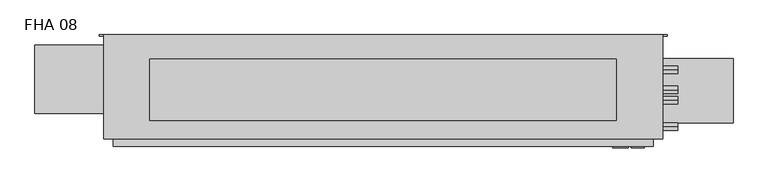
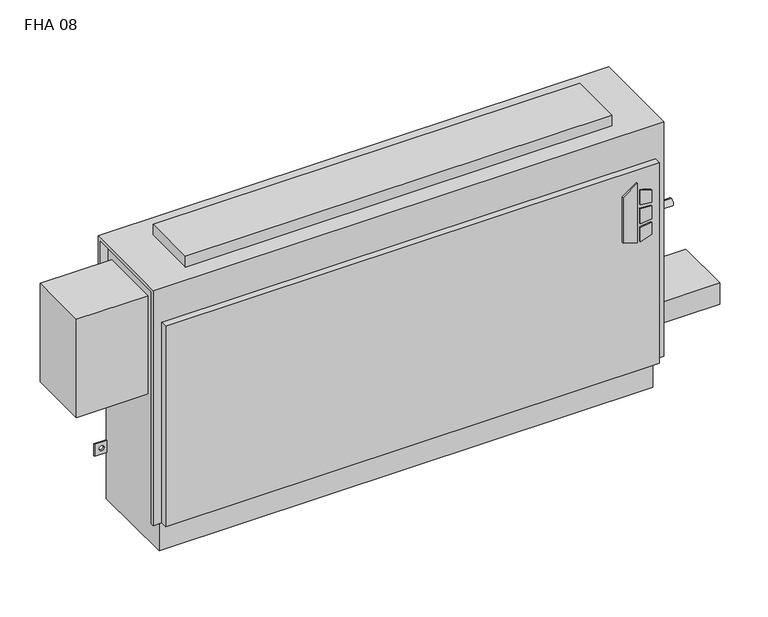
"""IFC4 building model written with IfcOpenShell, lengths in millimetres: proxy geometry, Vertical_Fan_Coil_Unit_-_FHA_-_IEC_-_4-Pipe_TS-FR_RH_2022 : FHA 08."""

from ifc_helpers import new_model, si_unit, point, frame, frame_2d, origin, place, context, project, spatial, polyline, circle_curve, trimmed, segment, composite_curve, outline, extrude, source, transform, mapped, element, save
from ifc_brep_helpers import plane_surface, revolved_surface, advanced_brep


def fha_08_c3b81369(model_context):
    return source(origin(), model_context, "Body", "SolidModel", [
        extrude(outline(polyline([(391.6086829, 627.1368862), (381.6606126, 659.3102728), (523.831537, 659.3102728), (500.8095309, 627.1368862), (391.6086829, 627.1368862)])), frame((0.0, 9.525, 0.0), z_axis=(0.0, 1.0, 0.0), x_axis=(0.0, 0.0, 1.0)), (0.0, 0.0, 1.0), 3.175),
        extrude(outline(polyline([(470.6079683, 666.0686058), (467.4055757, 692.15), (496.6344168, 692.15), (504.6988318, 666.0686058), (470.6079683, 666.0686058)])), frame((0.0, 9.525, 0.0), z_axis=(0.0, 1.0, 0.0), x_axis=(0.0, 0.0, 1.0)), (0.0, 0.0, 1.0), 3.175),
        extrude(outline(polyline([(418.7444414, 692.15), (415.0789404, 666.0686058), (381.6606126, 666.0686058), (390.2948498, 692.15), (418.7444414, 692.15)])), frame((0.0, 9.525, 0.0), z_axis=(0.0, 1.0, 0.0), x_axis=(0.0, 0.0, 1.0)), (0.0, 0.0, 1.0), 3.175),
        extrude(outline(polyline([(458.0596028, 692.15), (460.3414292, 666.0686058), (424.4038806, 666.0686058), (427.1451456, 692.15), (458.0596028, 692.15)])), frame((0.0, 9.525, 0.0), z_axis=(0.0, 1.0, 0.0), x_axis=(0.0, 0.0, 1.0)), (0.0, 0.0, 1.0), 3.175),
        extrude(outline(composite_curve([segment(trimmed(circle_curve(frame_2d((774.7, 128.5875)), 9.525), [point((765.175, 128.5875))], [point((784.225, 128.5875))], False, "CARTESIAN"), True, "CONTINUOUS"), segment(trimmed(circle_curve(frame_2d((774.7, 128.5875)), 9.525), [point((784.225, 128.5875))], [point((765.175, 128.5875))], False, "CARTESIAN"), True, "CONTINUOUS")], self_intersect=False)), frame((0.0, 0.0, 101.6), z_axis=(0.0, 0.0, 1.0), x_axis=(1.0, 0.0, 0.0)), (0.0, 0.0, 1.0), 25.4),
        extrude(outline(polyline([(876.3, 195.2625), (876.3, 61.9125), (711.2, 61.9125), (711.2, 195.2625), (876.3, 195.2625)])), frame((0.0, 0.0, 127.0), z_axis=(0.0, 0.0, 1.0), x_axis=(1.0, 0.0, 0.0)), (0.0, 0.0, 1.0), 50.8),
        extrude(outline(polyline([(635.0, 193.675), (635.0, 66.675), (-330.2, 66.675), (-330.2, 193.675), (635.0, 193.675)])), frame((0.0, 0.0, 635.0), z_axis=(0.0, 0.0, 1.0), x_axis=(1.0, 0.0, 0.0)), (0.0, 0.0, 1.0), 25.4),
        extrude(outline(composite_curve([segment(trimmed(circle_curve(frame_2d((109.0168, 457.2)), 7.9375), [point((109.0168, 449.2625))], [point((109.0168, 465.1375))], False, "CARTESIAN"), True, "CONTINUOUS"), segment(trimmed(circle_curve(frame_2d((109.0168, 457.2)), 7.9375), [point((109.0168, 465.1375))], [point((109.0168, 449.2625))], False, "CARTESIAN"), True, "CONTINUOUS")], self_intersect=False)), frame((711.2, 0.0, 0.0), z_axis=(1.0, 0.0, 0.0), x_axis=(0.0, 1.0, 0.0)), (0.0, 0.0, 1.0), 50.8),
        extrude(outline(composite_curve([segment(trimmed(circle_curve(frame_2d((172.085, 460.0194)), 7.9375), [point((172.085, 452.0819))], [point((172.085, 467.9569))], False, "CARTESIAN"), True, "CONTINUOUS"), segment(trimmed(circle_curve(frame_2d((172.085, 460.0194)), 7.9375), [point((172.085, 467.9569))], [point((172.085, 452.0819))], False, "CARTESIAN"), True, "CONTINUOUS")], self_intersect=False)), frame((711.2, 0.0, 0.0), z_axis=(1.0, 0.0, 0.0), x_axis=(0.0, 1.0, 0.0)), (0.0, 0.0, 1.0), 50.8),
        extrude(outline(composite_curve([segment(trimmed(circle_curve(frame_2d((130.175, 554.99)), 7.9502), [point((130.175, 547.0398))], [point((130.175, 562.9402))], False, "CARTESIAN"), True, "CONTINUOUS"), segment(trimmed(circle_curve(frame_2d((130.175, 554.99)), 7.9502), [point((130.175, 562.9402))], [point((130.175, 547.0398))], False, "CARTESIAN"), True, "CONTINUOUS")], self_intersect=False)), frame((711.2, 0.0, 0.0), z_axis=(1.0, 0.0, 0.0), x_axis=(0.0, 1.0, 0.0)), (0.0, 0.0, 1.0), 50.8),
        extrude(outline(composite_curve([segment(trimmed(circle_curve(frame_2d((53.975, 416.56)), 7.9502), [point((53.975, 408.6098))], [point((53.975, 424.5102))], False, "CARTESIAN"), True, "CONTINUOUS"), segment(trimmed(circle_curve(frame_2d((53.975, 416.56)), 7.9502), [point((53.975, 424.5102))], [point((53.975, 408.6098))], False, "CARTESIAN"), True, "CONTINUOUS")], self_intersect=False)), frame((711.2, 0.0, 0.0), z_axis=(1.0, 0.0, 0.0), x_axis=(0.0, 1.0, 0.0)), (0.0, 0.0, 1.0), 50.8),
        extrude(outline(polyline([(-568.325, 223.266), (-406.4, 223.266), (-406.4, 81.534), (-568.325, 81.534), (-568.325, 223.266)])), frame((0.0, 0.0, 349.25), z_axis=(0.0, 0.0, 1.0), x_axis=(1.0, 0.0, 0.0)), (0.0, 0.0, 1.0), 234.95),
        advanced_brep(
        [(730.25, 244.475, 635.0), (-425.45, 244.475, 635.0), (-425.45, 28.575, 635.0), (730.25, 28.575, 635.0), (-406.4, 244.475, 0.0), (711.2, 244.475, 0.0), (711.2, 38.1, 0.0), (-406.4, 38.1, 0.0), (730.25, 244.475, 558.8), (711.2, 244.475, 558.8), (711.2, 244.475, 414.3375), (739.775, 244.475, 414.3375), (739.775, 244.475, 385.7625), (711.2, 244.475, 385.7625), (711.2, 244.475, 287.3375), (739.775, 244.475, 287.3375), (739.775, 244.475, 258.7625), (711.2, 244.475, 258.7625), (711.2, 244.475, 141.2875), (739.775, 244.475, 141.2875), (739.775, 244.475, 112.7125), (711.2, 244.475, 112.7125), (-406.4, 244.475, 112.7125), (-434.975, 244.475, 112.7125), (-434.975, 244.475, 141.2875), (-406.4, 244.475, 141.2875), (-406.4, 244.475, 258.7625), (-434.975, 244.475, 258.7625), (-434.975, 244.475, 287.3375), (-406.4, 244.475, 287.3375), (-406.4, 244.475, 385.7625), (-434.975, 244.475, 385.7625), (-434.975, 244.475, 414.3375), (-406.4, 244.475, 414.3375), (-406.4, 244.475, 558.8), (-425.45, 244.475, 558.8), (729.4626, 244.475, 127.0), (718.3374, 244.475, 127.0), (-413.5374, 244.475, 127.0), (-424.6626, 244.475, 127.0), (729.4626, 244.475, 273.05), (718.3374, 244.475, 273.05), (-413.5374, 244.475, 273.05), (-424.6626, 244.475, 273.05), (729.4626, 244.475, 400.05), (718.3374, 244.475, 400.05), (-413.5374, 244.475, 400.05), (-424.6626, 244.475, 400.05), (-425.45, 238.125, 558.8), (-425.45, 238.125, 628.65), (-425.45, 34.925, 628.65), (-425.45, 34.925, 73.025), (-425.45, 28.575, 73.025), (711.2, 12.7, 552.45), (-406.4, 12.7, 552.45), (-406.4, 12.7, 73.025), (711.2, 12.7, 73.025), (730.25, 28.575, 73.025), (730.25, 34.925, 73.025), (730.25, 34.925, 628.65), (730.25, 238.125, 628.65), (730.25, 238.125, 558.8), (-406.4, 28.575, 73.025), (-406.4, 28.575, 552.45), (711.2, 28.575, 552.45), (711.2, 28.575, 73.025), (-406.4, 34.925, 73.025), (-406.4, 38.1, 73.025), (711.2, 38.1, 73.025), (711.2, 34.925, 73.025), (711.2, 241.3, 112.7125), (711.2, 241.3, 141.2875), (711.2, 241.3, 258.7625), (711.2, 241.3, 287.3375), (711.2, 241.3, 385.7625), (711.2, 241.3, 414.3375), (711.2, 238.125, 558.8), (711.2, 238.125, 628.65), (711.2, 34.925, 628.65), (-406.4, 34.925, 628.65), (-406.4, 238.125, 628.65), (-406.4, 238.125, 558.8), (-406.4, 241.3, 414.3375), (-406.4, 241.3, 385.7625), (-406.4, 241.3, 287.3375), (-406.4, 241.3, 258.7625), (-406.4, 241.3, 141.2875), (-406.4, 241.3, 112.7125), (739.775, 241.3, 112.7125), (739.775, 241.3, 141.2875), (718.3374, 241.3, 127.0), (729.4626, 241.3, 127.0), (739.775, 241.3, 258.7625), (739.775, 241.3, 287.3375), (718.3374, 241.3, 273.05), (729.4626, 241.3, 273.05), (739.775, 241.3, 385.7625), (739.775, 241.3, 414.3375), (718.3374, 241.3, 400.05), (729.4626, 241.3, 400.05), (-434.975, 241.3, 141.2875), (-434.975, 241.3, 112.7125), (-424.6626, 241.3, 127.0), (-413.5374, 241.3, 127.0), (-434.975, 241.3, 287.3375), (-434.975, 241.3, 258.7625), (-424.6626, 241.3, 273.05), (-413.5374, 241.3, 273.05), (-434.975, 241.3, 414.3375), (-434.975, 241.3, 385.7625), (-424.6626, 241.3, 400.05), (-413.5374, 241.3, 400.05)],
        [
            (0, 1),
            (1, 2),
            (2, 3),
            (3, 0),
            (4, 5),
            (5, 6),
            (6, 7),
            (7, 4),
            (0, 8),
            (8, 9),
            (9, 10),
            (10, 11),
            (11, 12),
            (12, 13),
            (13, 14),
            (14, 15),
            (15, 16),
            (16, 17),
            (17, 18),
            (18, 19),
            (19, 20),
            (20, 21),
            (21, 5),
            (4, 22),
            (22, 23),
            (23, 24),
            (24, 25),
            (25, 26),
            (26, 27),
            (27, 28),
            (28, 29),
            (29, 30),
            (30, 31),
            (31, 32),
            (32, 33),
            (33, 34),
            (34, 35),
            (35, 1),
            (36, 37, circle_curve(frame((723.9, 244.475, 127.0), z_axis=(0.0, -1.0, 0.0), x_axis=(-1.0, 0.0, 0.0)), 5.5626)),
            (37, 36, circle_curve(frame((723.9, 244.475, 127.0), z_axis=(0.0, -1.0, 0.0), x_axis=(-1.0, 0.0, 0.0)), 5.5626)),
            (38, 39, circle_curve(frame((-419.1, 244.475, 127.0), z_axis=(0.0, -1.0, 0.0), x_axis=(-1.0, 0.0, 0.0)), 5.5626)),
            (39, 38, circle_curve(frame((-419.1, 244.475, 127.0), z_axis=(0.0, -1.0, 0.0), x_axis=(-1.0, 0.0, 0.0)), 5.5626)),
            (40, 41, circle_curve(frame((723.9, 244.475, 273.05), z_axis=(0.0, -1.0, 0.0), x_axis=(-1.0, 0.0, 0.0)), 5.5626)),
            (41, 40, circle_curve(frame((723.9, 244.475, 273.05), z_axis=(0.0, -1.0, 0.0), x_axis=(-1.0, 0.0, 0.0)), 5.5626)),
            (42, 43, circle_curve(frame((-419.1, 244.475, 273.05), z_axis=(0.0, -1.0, 0.0), x_axis=(-1.0, 0.0, 0.0)), 5.5626)),
            (43, 42, circle_curve(frame((-419.1, 244.475, 273.05), z_axis=(0.0, -1.0, 0.0), x_axis=(-1.0, 0.0, 0.0)), 5.5626)),
            (44, 45, circle_curve(frame((723.9, 244.475, 400.05), z_axis=(0.0, -1.0, 0.0), x_axis=(-1.0, 0.0, 0.0)), 5.5626)),
            (45, 44, circle_curve(frame((723.9, 244.475, 400.05), z_axis=(0.0, -1.0, 0.0), x_axis=(-1.0, 0.0, 0.0)), 5.5626)),
            (46, 47, circle_curve(frame((-419.1, 244.475, 400.05), z_axis=(0.0, -1.0, 0.0), x_axis=(-1.0, 0.0, 0.0)), 5.5626)),
            (47, 46, circle_curve(frame((-419.1, 244.475, 400.05), z_axis=(0.0, -1.0, 0.0), x_axis=(-1.0, 0.0, 0.0)), 5.5626)),
            (35, 48),
            (48, 49),
            (49, 50),
            (50, 51),
            (51, 52),
            (52, 2),
            (53, 54),
            (54, 55),
            (55, 56),
            (56, 53),
            (3, 57),
            (57, 58),
            (58, 59),
            (59, 60),
            (60, 61),
            (61, 8),
            (52, 62),
            (62, 63),
            (63, 64),
            (64, 65),
            (65, 57),
            (53, 64),
            (63, 54),
            (55, 62),
            (51, 66),
            (66, 67),
            (67, 68),
            (68, 69),
            (69, 58),
            (65, 56),
            (6, 68),
            (67, 7),
            (21, 70),
            (70, 71),
            (71, 18),
            (17, 72),
            (72, 73),
            (73, 14),
            (13, 74),
            (74, 75),
            (75, 10),
            (9, 76),
            (76, 77),
            (77, 78),
            (78, 69),
            (66, 79),
            (79, 80),
            (80, 81),
            (81, 34),
            (33, 82),
            (82, 83),
            (83, 30),
            (29, 84),
            (84, 85),
            (85, 26),
            (25, 86),
            (86, 87),
            (87, 22),
            (76, 61),
            (60, 77),
            (78, 59),
            (50, 79),
            (81, 48),
            (80, 49),
            (70, 88),
            (88, 89),
            (89, 71),
            (90, 91, circle_curve(frame((723.9, 241.3, 127.0), z_axis=(0.0, 1.0, 0.0), x_axis=(-1.0, 0.0, 0.0)), 5.5626)),
            (91, 90, circle_curve(frame((723.9, 241.3, 127.0), z_axis=(0.0, 1.0, 0.0), x_axis=(-1.0, 0.0, 0.0)), 5.5626)),
            (92, 93),
            (93, 73),
            (72, 92),
            (94, 95, circle_curve(frame((723.9, 241.3, 273.05), z_axis=(0.0, 1.0, 0.0), x_axis=(-1.0, 0.0, 0.0)), 5.5626)),
            (95, 94, circle_curve(frame((723.9, 241.3, 273.05), z_axis=(0.0, 1.0, 0.0), x_axis=(-1.0, 0.0, 0.0)), 5.5626)),
            (96, 97),
            (97, 75),
            (74, 96),
            (98, 99, circle_curve(frame((723.9, 241.3, 400.05), z_axis=(0.0, 1.0, 0.0), x_axis=(-1.0, 0.0, 0.0)), 5.5626)),
            (99, 98, circle_curve(frame((723.9, 241.3, 400.05), z_axis=(0.0, 1.0, 0.0), x_axis=(-1.0, 0.0, 0.0)), 5.5626)),
            (100, 101),
            (101, 87),
            (86, 100),
            (102, 103, circle_curve(frame((-419.1, 241.3, 127.0), z_axis=(0.0, 1.0, 0.0), x_axis=(-1.0, 0.0, 0.0)), 5.5626)),
            (103, 102, circle_curve(frame((-419.1, 241.3, 127.0), z_axis=(0.0, 1.0, 0.0), x_axis=(-1.0, 0.0, 0.0)), 5.5626)),
            (84, 104),
            (104, 105),
            (105, 85),
            (106, 107, circle_curve(frame((-419.1, 241.3, 273.05), z_axis=(0.0, 1.0, 0.0), x_axis=(-1.0, 0.0, 0.0)), 5.5626)),
            (107, 106, circle_curve(frame((-419.1, 241.3, 273.05), z_axis=(0.0, 1.0, 0.0), x_axis=(-1.0, 0.0, 0.0)), 5.5626)),
            (108, 109),
            (109, 83),
            (82, 108),
            (110, 111, circle_curve(frame((-419.1, 241.3, 400.05), z_axis=(0.0, 1.0, 0.0), x_axis=(-1.0, 0.0, 0.0)), 5.5626)),
            (111, 110, circle_curve(frame((-419.1, 241.3, 400.05), z_axis=(0.0, 1.0, 0.0), x_axis=(-1.0, 0.0, 0.0)), 5.5626)),
            (89, 19),
            (88, 20),
            (16, 92),
            (93, 15),
            (12, 96),
            (97, 11),
            (24, 100),
            (101, 23),
            (105, 27),
            (104, 28),
            (32, 108),
            (109, 31),
            (90, 37),
            (36, 91),
            (102, 39),
            (38, 103),
            (94, 41),
            (40, 95),
            (106, 43),
            (42, 107),
            (98, 45),
            (44, 99),
            (110, 47),
            (46, 111),
        ],
        [
            plane_surface(frame((-425.45, 244.475, 635.0), z_axis=(0.0, 0.0, 1.0), x_axis=(-1.0, 0.0, 0.0))),
            plane_surface(frame((-425.45, 244.475, 0.0), z_axis=(0.0, 0.0, -1.0), x_axis=(1.0, 0.0, 0.0))),
            plane_surface(frame((730.25, 244.475, 635.0), z_axis=(0.0, 1.0, 0.0), x_axis=(0.0, 0.0, -1.0))),
            plane_surface(frame((-425.45, 244.475, 635.0), z_axis=(-1.0, 0.0, 0.0), x_axis=(0.0, 0.0, -1.0))),
            plane_surface(frame((-425.45, 12.7, 635.0), z_axis=(0.0, -1.0, 0.0), x_axis=(0.0, 0.0, -1.0))),
            plane_surface(frame((730.25, 12.7, 635.0), z_axis=(1.0, 0.0, 0.0), x_axis=(0.0, 0.0, -1.0))),
            plane_surface(frame((-704.85, 28.575, 635.0), z_axis=(0.0, -1.0, 0.0), x_axis=(1.0, 0.0, 0.0))),
            plane_surface(frame((-704.85, 28.575, 552.45), z_axis=(0.0, 0.0, 1.0), x_axis=(1.0, 0.0, 0.0))),
            plane_surface(frame((-425.45, 12.7, 73.025), z_axis=(0.0, 0.0, -1.0), x_axis=(1.0, 0.0, 0.0))),
            plane_surface(frame((-425.45, 38.1, 73.025), z_axis=(0.0, -1.0, 0.0), x_axis=(1.0, 0.0, 0.0))),
            plane_surface(frame((711.2, 28.575, 73.025), z_axis=(1.0, 0.0, 0.0), x_axis=(0.0, -1.0, 0.0))),
            plane_surface(frame((-406.4, 28.575, 552.45), z_axis=(-1.0, 0.0, 0.0), x_axis=(0.0, -1.0, 0.0))),
            plane_surface(frame((711.2, 244.475, 0.0), z_axis=(1.0, 0.0, 0.0), x_axis=(0.0, -1.0, 0.0))),
            plane_surface(frame((-406.4, 244.475, 73.025), z_axis=(-1.0, 0.0, 0.0), x_axis=(0.0, -1.0, 0.0))),
            plane_surface(frame((711.2, 238.125, 628.65), z_axis=(0.0, -1.0, 0.0), x_axis=(1.0, 0.0, 0.0))),
            plane_surface(frame((711.2, 238.125, 558.8), z_axis=(0.0, 0.0, -1.0), x_axis=(1.0, 0.0, 0.0))),
            plane_surface(frame((711.2, 34.925, 73.025), z_axis=(0.0, 1.0, 0.0), x_axis=(1.0, 0.0, 0.0))),
            plane_surface(frame((711.2, 34.925, 628.65), z_axis=(0.0, 0.0, -1.0), x_axis=(1.0, 0.0, 0.0))),
            plane_surface(frame((-406.4, 34.925, 628.65), z_axis=(0.0, 1.0, 0.0), x_axis=(-1.0, 0.0, 0.0))),
            plane_surface(frame((-406.4, 244.475, 558.8), z_axis=(0.0, 0.0, -1.0), x_axis=(-1.0, 0.0, 0.0))),
            plane_surface(frame((-406.4, 238.125, 558.8), z_axis=(0.0, -1.0, 0.0), x_axis=(-1.0, 0.0, 0.0))),
            plane_surface(frame((-406.4, 238.125, 628.65), z_axis=(0.0, 0.0, -1.0), x_axis=(-1.0, 0.0, 0.0))),
            plane_surface(frame((739.775, 241.3, 141.2875), z_axis=(0.0, -1.0, 0.0), x_axis=(-1.0, 0.0, 0.0))),
            plane_surface(frame((711.2, 244.475, 141.2875), z_axis=(0.0, 0.0, 1.0), x_axis=(0.0, -1.0, 0.0))),
            plane_surface(frame((739.775, 244.475, 141.2875), z_axis=(1.0, 0.0, 0.0), x_axis=(0.0, -1.0, 0.0))),
            plane_surface(frame((739.775, 244.475, 112.7125), z_axis=(0.0, 0.0, -1.0), x_axis=(0.0, -1.0, 0.0))),
            plane_surface(frame((739.775, 244.475, 258.7625), z_axis=(0.0, 0.0, -1.0), x_axis=(0.0, -1.0, 0.0))),
            plane_surface(frame((711.2, 244.475, 287.3375), z_axis=(0.0, 0.0, 1.0), x_axis=(0.0, -1.0, 0.0))),
            plane_surface(frame((739.775, 244.475, 287.3375), z_axis=(1.0, 0.0, 0.0), x_axis=(0.0, -1.0, 0.0))),
            plane_surface(frame((739.775, 244.475, 385.7625), z_axis=(0.0, 0.0, -1.0), x_axis=(0.0, -1.0, 0.0))),
            plane_surface(frame((711.2, 244.475, 414.3375), z_axis=(0.0, 0.0, 1.0), x_axis=(0.0, -1.0, 0.0))),
            plane_surface(frame((739.775, 244.475, 414.3375), z_axis=(1.0, 0.0, 0.0), x_axis=(0.0, -1.0, 0.0))),
            plane_surface(frame((-434.975, 244.475, 141.2875), z_axis=(0.0, 0.0, 1.0), x_axis=(0.0, -1.0, 0.0))),
            plane_surface(frame((-406.4, 244.475, 112.7125), z_axis=(0.0, 0.0, -1.0), x_axis=(0.0, -1.0, 0.0))),
            plane_surface(frame((-434.975, 244.475, 112.7125), z_axis=(-1.0, 0.0, 0.0), x_axis=(0.0, -1.0, 0.0))),
            plane_surface(frame((-406.4, 244.475, 258.7625), z_axis=(0.0, 0.0, -1.0), x_axis=(0.0, -1.0, 0.0))),
            plane_surface(frame((-434.975, 244.475, 258.7625), z_axis=(-1.0, 0.0, 0.0), x_axis=(0.0, -1.0, 0.0))),
            plane_surface(frame((-434.975, 244.475, 287.3375), z_axis=(0.0, 0.0, 1.0), x_axis=(0.0, -1.0, 0.0))),
            plane_surface(frame((-434.975, 244.475, 414.3375), z_axis=(0.0, 0.0, 1.0), x_axis=(0.0, -1.0, 0.0))),
            plane_surface(frame((-406.4, 244.475, 385.7625), z_axis=(0.0, 0.0, -1.0), x_axis=(0.0, -1.0, 0.0))),
            plane_surface(frame((-434.975, 244.475, 385.7625), z_axis=(-1.0, 0.0, 0.0), x_axis=(0.0, -1.0, 0.0))),
            revolved_surface(polyline([(718.3374, 241.3, 127.0), (718.3374, 244.475, 127.0)]), (723.9, 244.475, 127.0), (0.0, -1.0, 0.0)),
            revolved_surface(polyline([(-424.6626, 241.3, 127.0), (-424.6626, 244.475, 127.0)]), (-419.1, 244.475, 127.0), (0.0, -1.0, 0.0)),
            revolved_surface(polyline([(718.3374, 241.3, 273.05), (718.3374, 244.475, 273.05)]), (723.9, 244.475, 273.05), (0.0, -1.0, 0.0)),
            revolved_surface(polyline([(-424.6626, 241.3, 273.05), (-424.6626, 244.475, 273.05)]), (-419.1, 244.475, 273.05), (0.0, -1.0, 0.0)),
            revolved_surface(polyline([(718.3374, 241.3, 400.05), (718.3374, 244.475, 400.05)]), (723.9, 244.475, 400.05), (0.0, -1.0, 0.0)),
            revolved_surface(polyline([(-424.6626, 241.3, 400.05), (-424.6626, 244.475, 400.05)]), (-419.1, 244.475, 400.05), (0.0, -1.0, 0.0)),
        ],
        [
            (0, [[1, 2, 3, 4]]),
            (1, [[5, 6, 7, 8]]),
            (2, [[-1, 9, 10, 11, 12, 13, 14, 15, 16, 17, 18, 19, 20, 21, 22, 23, -5, 24, 25, 26, 27, 28, 29, 30, 31, 32, 33, 34, 35, 36, 37, 38], [39, 40], [41, 42], [43, 44], [45, 46], [47, 48], [49, 50]]),
            (3, [[-2, -38, 51, 52, 53, 54, 55, 56]]),
            (4, [[57, 58, 59, 60]]),
            (5, [[-4, 61, 62, 63, 64, 65, 66, -9]]),
            (6, [[-3, -56, 67, 68, 69, 70, 71, -61]]),
            (7, [[-57, 72, -69, 73]]),
            (8, [[-59, 74, -67, -55, 75, 76, 77, 78, 79, -62, -71, 80]]),
            (9, [[-7, 81, -77, 82]]),
            (10, [[-70, -72, -60, -80]]),
            (11, [[-68, -74, -58, -73]]),
            (12, [[-6, -23, 83, 84, 85, -19, 86, 87, 88, -15, 89, 90, 91, -11, 92, 93, 94, 95, -78, -81]]),
            (13, [[-8, -82, -76, 96, 97, 98, 99, -36, 100, 101, 102, -32, 103, 104, 105, -28, 106, 107, 108, -24]]),
            (14, [[-93, 109, -65, 110]]),
            (15, [[-92, -10, -66, -109]]),
            (16, [[-95, 111, -63, -79]]),
            (17, [[-94, -110, -64, -111]]),
            (18, [[-96, -75, -54, 112]]),
            (19, [[-99, 113, -51, -37]]),
            (20, [[-98, 114, -52, -113]]),
            (21, [[-97, -112, -53, -114]]),
            (22, [[115, 116, 117, -84], [118, 119]]),
            (22, [[120, 121, -87, 122], [123, 124]]),
            (22, [[125, 126, -90, 127], [128, 129]]),
            (22, [[130, 131, -107, 132], [133, 134]]),
            (22, [[135, 136, 137, -104], [138, 139]]),
            (22, [[140, 141, -101, 142], [143, 144]]),
            (23, [[-117, 145, -20, -85]]),
            (24, [[-116, 146, -21, -145]]),
            (25, [[-115, -83, -22, -146]]),
            (26, [[-122, -86, -18, 147]]),
            (27, [[-121, 148, -16, -88]]),
            (28, [[-120, -147, -17, -148]]),
            (29, [[-127, -89, -14, 149]]),
            (30, [[-126, 150, -12, -91]]),
            (31, [[-125, -149, -13, -150]]),
            (32, [[-132, -106, -27, 151]]),
            (33, [[-131, 152, -25, -108]]),
            (34, [[-130, -151, -26, -152]]),
            (35, [[-137, 153, -29, -105]]),
            (36, [[-136, 154, -30, -153]]),
            (37, [[-135, -103, -31, -154]]),
            (38, [[-142, -100, -35, 155]]),
            (39, [[-141, 156, -33, -102]]),
            (40, [[-140, -155, -34, -156]]),
            (41, [[157, -39, 158, -118]]),
            (41, [[-157, -119, -158, -40]]),
            (42, [[159, -41, 160, -133]]),
            (42, [[-159, -134, -160, -42]]),
            (43, [[161, -43, 162, -123]]),
            (43, [[-161, -124, -162, -44]]),
            (44, [[163, -45, 164, -138]]),
            (44, [[-163, -139, -164, -46]]),
            (45, [[165, -47, 166, -128]]),
            (45, [[-165, -129, -166, -48]]),
            (46, [[167, -49, 168, -143]]),
            (46, [[-167, -144, -168, -50]]),
        ],
    ),
    ])


if __name__ == "__main__":
    model = new_model("IFC4")
    model_context = context("Model", 3, world=origin())
    ifc_project = project(units=[si_unit("LENGTHUNIT", "METRE", prefix="MILLI")], contexts=[model_context])
    site = spatial("IfcSite", under=ifc_project)
    building = spatial("IfcBuilding", under=site)
    placement = place(None, origin())
    fha_08_shape = fha_08_c3b81369(model_context)
    element("IfcBuildingElementProxy", 1, Name="Vertical_Fan_Coil_Unit_-_FHA_-_IEC_-_4-Pipe_TS-FR_RH_2022 : FHA 08", ObjectType="Vertical_Fan_Coil_Unit_-_FHA_-_IEC_-_4-Pipe_TS-FR_RH_2022 : FHA 08", at=placement, inside=building, context=model_context, shape_type="MappedRepresentation", body=[
        mapped(fha_08_shape, transform((0.0, 0.0, 0.0), x_axis=(1.0, 0.0, 0.0), y_axis=(0.0, 1.0, 0.0), z_axis=(0.0, 0.0, 1.0))),
    ])
    save(model, "model.ifc")
